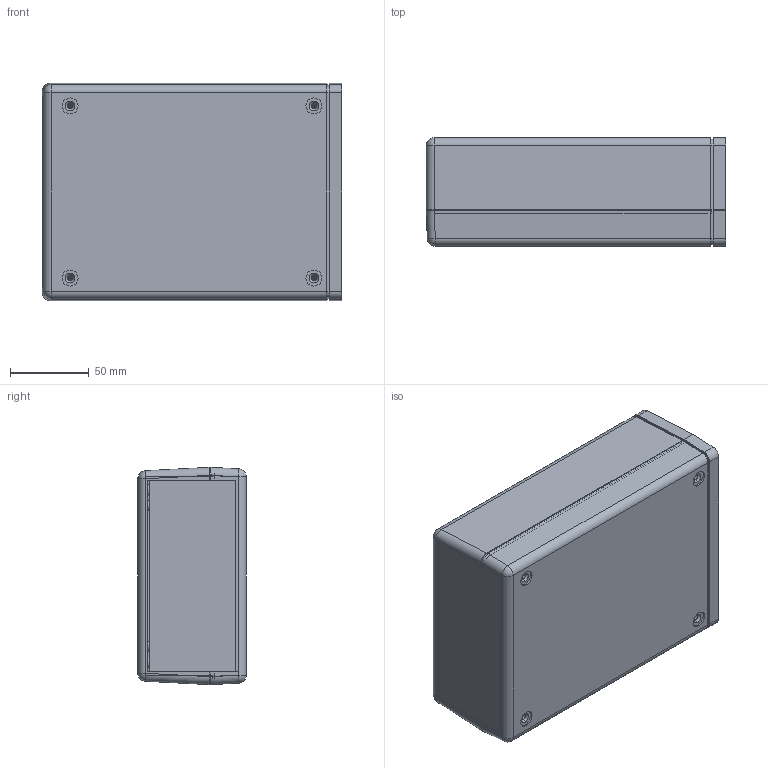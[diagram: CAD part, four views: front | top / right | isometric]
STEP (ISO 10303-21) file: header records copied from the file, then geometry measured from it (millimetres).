
FILE_DESCRIPTION (( 'STEP AP214' ), '1' );
FILE_NAME ('UOOL-120.STEP', '2020-05-22T22:45:20', ( 'Rudy' ), ( '' ), 'SwSTEP 2.0', 'SolidWorks 2014', '' );
FILE_SCHEMA (( 'AUTOMOTIVE_DESIGN' ));
Length unit declared in the file: inch
Products named in the file (4): UOOL-top deep; UOOL 120 PANEL; UOOL-bottom; UOOL-120
Assembly tree (4 placements, depth 2):
  UOOL-120
    UOOL-bottom
    UOOL 120 PANEL  x2
    UOOL-top deep
Bounding box: 189.84 x 68.71 x 137.79 mm (x, y, z)
Volume: 288312.3 mm3; surface area: 207593.5 mm2
Topology: 4 solids, 4 shells, 1071 faces, 2771 edges, 1744 vertices
Faces by surface type: plane 426, cylinder 425, torus 124, bspline 48, cone 44, sphere 4
Entity records: 33896 total; most frequent: CARTESIAN_POINT 7580, DIRECTION 5614, ORIENTED_EDGE 5510, EDGE_CURVE 2755, AXIS2_PLACEMENT_3D 2056, VERTEX_POINT 1736, LINE 1502, VECTOR 1502
